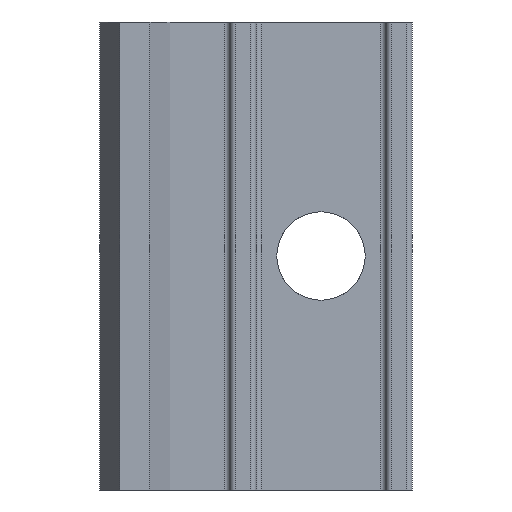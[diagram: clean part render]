
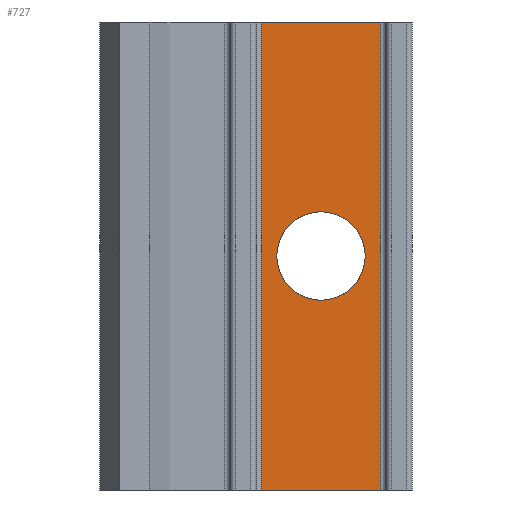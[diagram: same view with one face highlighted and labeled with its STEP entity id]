
A CAD part, front view. The second image highlights one B-rep face of the part: STEP entity #727.
In plain terms, the highlighted planar face has unit normal (0, -1, 0).
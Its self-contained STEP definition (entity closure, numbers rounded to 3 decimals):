
#41 = ORIENTED_EDGE ( 'NONE', *, *, #77, .F. ) ;
#42 = EDGE_CURVE ( 'NONE', #713, #76, #998, .T. ) ;
#67 = EDGE_LOOP ( 'NONE', ( #88, #41, #69, #82 ) ) ;
#69 = ORIENTED_EDGE ( 'NONE', *, *, #42, .F. ) ;
#74 = ORIENTED_EDGE ( 'NONE', *, *, #769, .T. ) ;
#75 = EDGE_CURVE ( 'NONE', #720, #78, #1011, .T. ) ;
#76 = VERTEX_POINT ( 'NONE', #1006 ) ;
#77 = EDGE_CURVE ( 'NONE', #76, #78, #987, .T. ) ;
#78 = VERTEX_POINT ( 'NONE', #990 ) ;
#82 = ORIENTED_EDGE ( 'NONE', *, *, #731, .T. ) ;
#88 = ORIENTED_EDGE ( 'NONE', *, *, #75, .T. ) ;
#515 = CARTESIAN_POINT ( 'NONE',  ( 203.677, -9.625, 0. ) ) ;
#535 = CARTESIAN_POINT ( 'NONE',  ( 203.677, -9.625, 45. ) ) ;
#550 = DIRECTION ( 'NONE',  ( 0., 0., -1. ) ) ;
#551 = VECTOR ( 'NONE', #550, 1000. ) ;
#552 = CARTESIAN_POINT ( 'NONE',  ( 203.677, -9.625, 45. ) ) ;
#559 = DIRECTION ( 'NONE',  ( -1., 0., 0. ) ) ;
#560 = DIRECTION ( 'NONE',  ( 0., 1., 0. ) ) ;
#561 = CARTESIAN_POINT ( 'NONE',  ( 203.677, -9.625, 45. ) ) ;
#563 = AXIS2_PLACEMENT_3D ( 'NONE', #561, #560, #559 ) ;
#564 = LINE ( 'NONE', #552, #551 ) ;
#566 = FACE_OUTER_BOUND ( 'NONE', #67, .T. ) ;
#567 = PLANE ( 'NONE',  #563 ) ;
#568 = FACE_BOUND ( 'NONE', #711, .T. ) ;
#607 = CARTESIAN_POINT ( 'NONE',  ( 209.427, -9.625, 18.25 ) ) ;
#608 = CARTESIAN_POINT ( 'NONE',  ( 209.427, -9.625, 22.5 ) ) ;
#618 = DIRECTION ( 'NONE',  ( -1., 0., 0. ) ) ;
#619 = DIRECTION ( 'NONE',  ( 0., 1., 0. ) ) ;
#620 = AXIS2_PLACEMENT_3D ( 'NONE', #608, #619, #618 ) ;
#621 = CIRCLE ( 'NONE', #620, 4.25 ) ;
#624 = CARTESIAN_POINT ( 'NONE',  ( 209.427, -9.625, 26.75 ) ) ;
#711 = EDGE_LOOP ( 'NONE', ( #748, #74 ) ) ;
#713 = VERTEX_POINT ( 'NONE', #535 ) ;
#720 = VERTEX_POINT ( 'NONE', #515 ) ;
#727 = ADVANCED_FACE ( 'NONE', ( #568, #566 ), #567, .F. ) ;
#731 = EDGE_CURVE ( 'NONE', #713, #720, #564, .T. ) ;
#748 = ORIENTED_EDGE ( 'NONE', *, *, #1058, .T. ) ;
#753 = VERTEX_POINT ( 'NONE', #607 ) ;
#766 = VERTEX_POINT ( 'NONE', #624 ) ;
#769 = EDGE_CURVE ( 'NONE', #753, #766, #621, .T. ) ;
#777 = DIRECTION ( 'NONE',  ( -1., 0., 0. ) ) ;
#778 = DIRECTION ( 'NONE',  ( 0., 1., 0. ) ) ;
#779 = CARTESIAN_POINT ( 'NONE',  ( 209.427, -9.625, 22.5 ) ) ;
#793 = CIRCLE ( 'NONE', #794, 4.25 ) ;
#794 = AXIS2_PLACEMENT_3D ( 'NONE', #779, #778, #777 ) ;
#986 = VECTOR ( 'NONE', #1037, 1000. ) ;
#987 = LINE ( 'NONE', #1014, #986 ) ;
#990 = CARTESIAN_POINT ( 'NONE',  ( 215.177, -9.625, 0. ) ) ;
#991 = VECTOR ( 'NONE', #1012, 1000. ) ;
#995 = DIRECTION ( 'NONE',  ( 1., 0., 0. ) ) ;
#996 = VECTOR ( 'NONE', #995, 1000. ) ;
#997 = CARTESIAN_POINT ( 'NONE',  ( 203.677, -9.625, 45. ) ) ;
#998 = LINE ( 'NONE', #997, #996 ) ;
#1006 = CARTESIAN_POINT ( 'NONE',  ( 215.177, -9.625, 45. ) ) ;
#1010 = CARTESIAN_POINT ( 'NONE',  ( 203.677, -9.625, 0. ) ) ;
#1011 = LINE ( 'NONE', #1010, #991 ) ;
#1012 = DIRECTION ( 'NONE',  ( 1., 0., 0. ) ) ;
#1014 = CARTESIAN_POINT ( 'NONE',  ( 215.177, -9.625, 45. ) ) ;
#1037 = DIRECTION ( 'NONE',  ( 0., 0., -1. ) ) ;
#1058 = EDGE_CURVE ( 'NONE', #766, #753, #793, .T. ) ;
